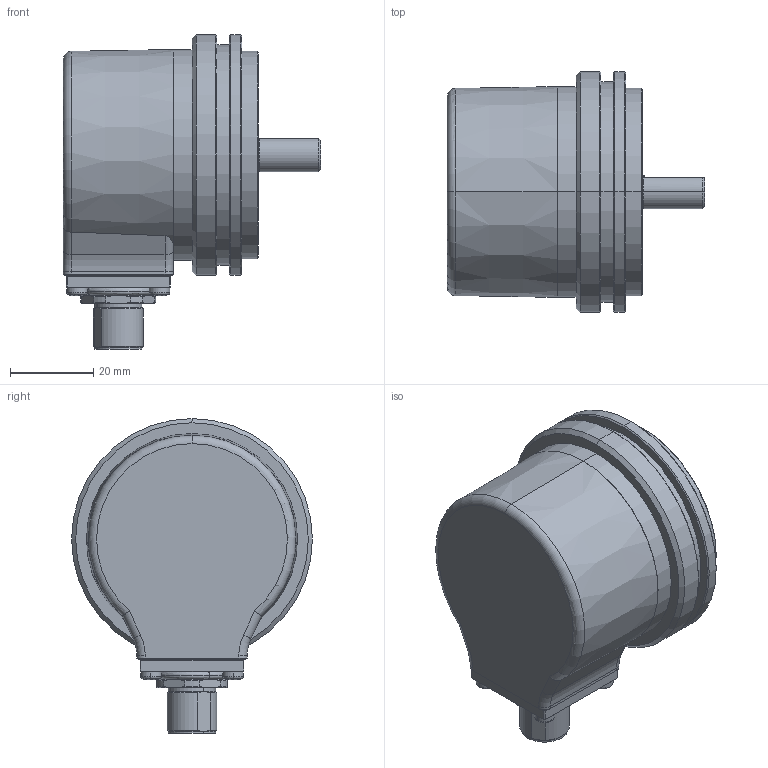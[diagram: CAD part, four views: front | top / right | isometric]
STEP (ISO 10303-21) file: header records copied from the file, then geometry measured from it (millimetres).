
FILE_DESCRIPTION (( 'STEP AP203' ), '1' );
FILE_NAME ('8.5000.B67R.XXXX.STEP', '2017-04-05T08:09:02', ( '' ), ( '' ), 'SwSTEP 2.0', 'SolidWorks 2017', '' );
FILE_SCHEMA (( 'CONFIG_CONTROL_DESIGN' ));
Length unit declared in the file: millimetre
Products named in the file (1): 8.5000.B67R.XXXX
Bounding box: 62 x 58 x 75.8 mm (x, y, z)
Surface area: 35655.6 mm2 (no closed solid volume)
Topology: 0 solids, 15 shells, 615 faces, 1457 edges, 864 vertices
Faces by surface type: plane 204, cylinder 176, cone 114, bspline 62, torus 47, sphere 12
Entity records: 19952 total; most frequent: CARTESIAN_POINT 6026, DIRECTION 3030, ORIENTED_EDGE 2786, EDGE_CURVE 1401, AXIS2_PLACEMENT_3D 1246, VERTEX_POINT 864, EDGE_LOOP 707, CIRCLE 692
